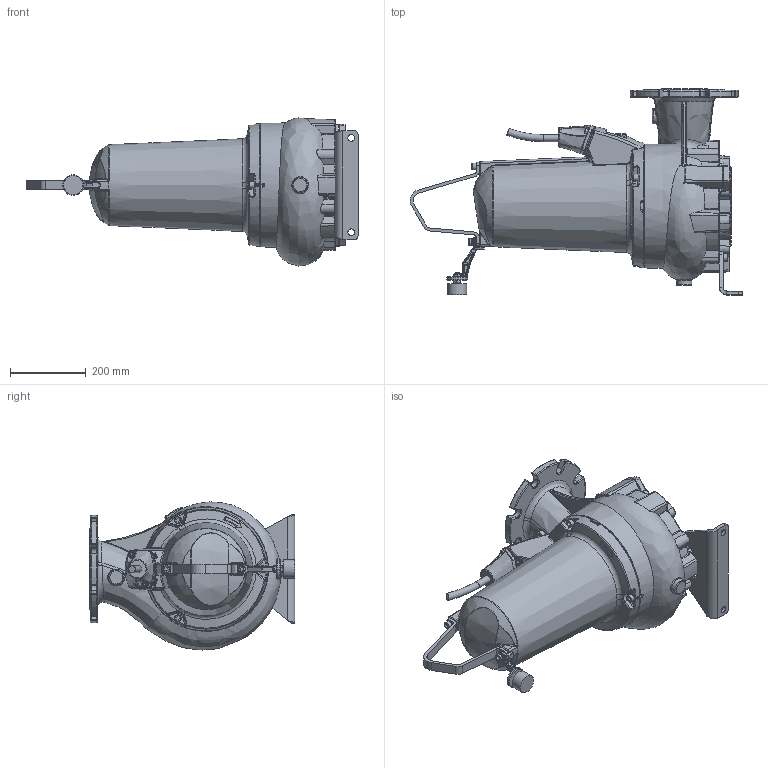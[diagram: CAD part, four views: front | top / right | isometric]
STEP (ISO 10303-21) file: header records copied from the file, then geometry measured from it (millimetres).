
FILE_DESCRIPTION (( 'STEP AP203' ), '1' );
FILE_NAME ('XFP150E-CB1_PE2B_Dry_Horizontal-.step', '2024-01-16T15:42:04', ( '' ), ( '' ), 'SwSTEP 2.0', 'SolidWorks 2017', '' );
FILE_SCHEMA (( 'CONFIG_CONTROL_DESIGN' ));
Length unit declared in the file: millimetre
Products named in the file (2): XFP150E-CB1_PE2B_Dry_Horizontal-
Bounding box: 878.93 x 545 x 391.93 mm (x, y, z)
Volume: 45840686.7 mm3; surface area: 1209426.9 mm2
Topology: 19 solids, 23 shells, 2384 faces, 5692 edges, 3333 vertices
Faces by surface type: bspline 864, plane 572, cylinder 528, torus 238, cone 108, sphere 74
Full cylindrical faces by diameter (mm): 6 x1, 6.8 x2, 8 x4, 9 x2, 10 x3, 10.2 x9, 11 x1, 12 x17, 12.5 x2, 13 x8, 18 x10, 18.7 x1, 50 x1, 55 x1, 62 x1, 212 x1, 280 x1
Entity records: 129127 total; most frequent: CARTESIAN_POINT 82063, ORIENTED_EDGE 10820, DIRECTION 7990, EDGE_CURVE 5410, VERTEX_POINT 3287, AXIS2_PLACEMENT_3D 3147, EDGE_LOOP 2623, FACE_OUTER_BOUND 2488
